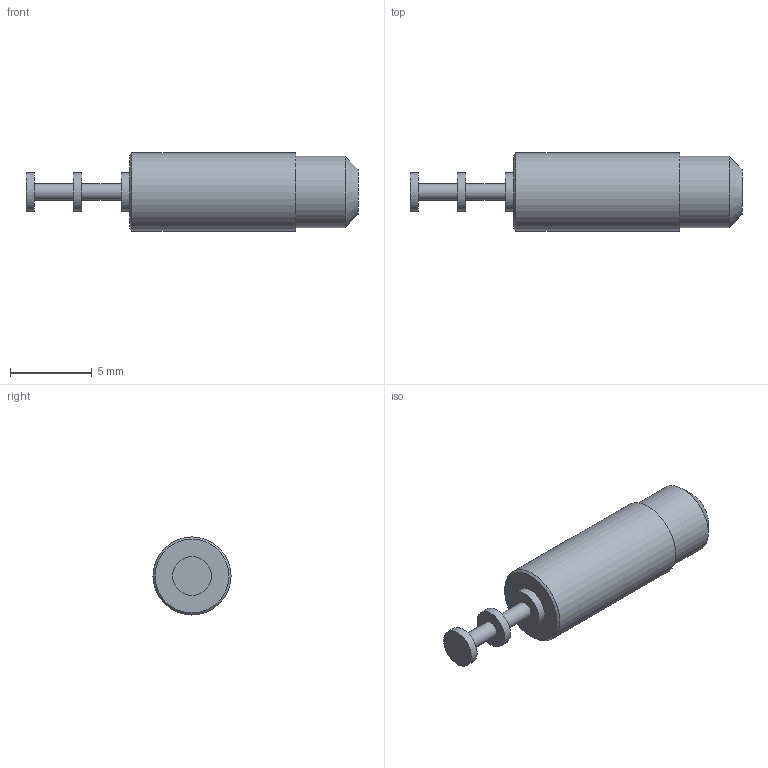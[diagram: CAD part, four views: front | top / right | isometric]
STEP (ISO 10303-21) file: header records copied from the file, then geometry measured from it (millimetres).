
FILE_DESCRIPTION(/* description */ (''),/* implementation_level */ '2;1');
FILE_NAME(/* name */ '\\Snap1\dwgs\Customer 3D Models\571\571-4102-01 Customer model.stp',/* time_stamp */ '2017-01-05T13:53:37+00:00',/* author */ ('paulk'),/* organization */ (''),/* preprocessor_version */ 'ST-DEVELOPER v15.2',/* originating_system */ 'Autodesk Inventor 2014',/* authorisation */ '');
FILE_SCHEMA (('CONFIG_CONTROL_DESIGN'));
Length unit declared in the file: millimetre
Products named in the file (1): 571-4102-01 Customer model
Bounding box: 20.32 x 4.78 x 4.78 mm (x, y, z)
Volume: 245.9 mm3; surface area: 273.8 mm2
Topology: 1 solids, 1 shells, 17 faces, 25 edges, 16 vertices
Faces by surface type: plane 8, cylinder 7, cone 2
Full cylindrical faces by diameter (mm): 1.016 x2, 2.388 x3, 4.369 x1, 4.775 x1
Entity records: 386 total; most frequent: DIRECTION 68, CARTESIAN_POINT 50, AXIS2_PLACEMENT_3D 34, EDGE_LOOP 32, ORIENTED_EDGE 32, FACE_BOUND 19, STYLED_ITEM 18, ADVANCED_FACE 17
